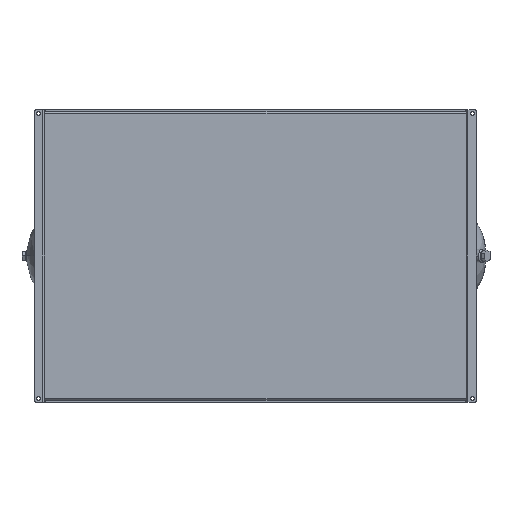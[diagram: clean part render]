
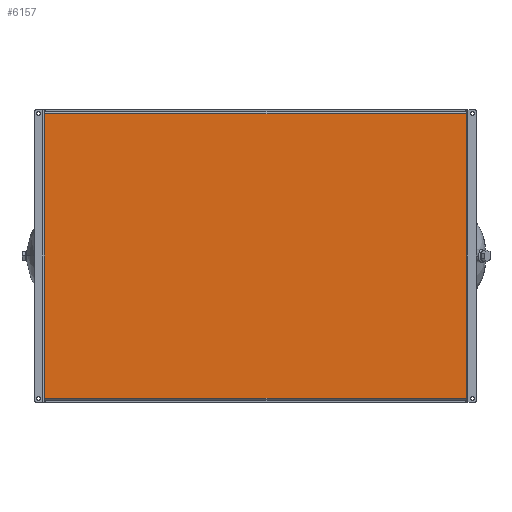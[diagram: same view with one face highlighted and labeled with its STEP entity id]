
A CAD part, front view. The second image highlights one B-rep face of the part: STEP entity #6157.
In plain terms, the highlighted planar face has unit normal (0, -1, 0).
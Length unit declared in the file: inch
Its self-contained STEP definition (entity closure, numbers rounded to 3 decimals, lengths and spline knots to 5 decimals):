
#261 = DIRECTION ( 'NONE',  ( 0., 0., 1. ) ) ;
#443 = VERTEX_POINT ( 'NONE', #5692 ) ;
#508 = DIRECTION ( 'NONE',  ( 0., 0., -1. ) ) ;
#803 = CARTESIAN_POINT ( 'NONE',  ( 90.81415, 2.375, 20.553 ) ) ;
#1126 = ORIENTED_EDGE ( 'NONE', *, *, #4193, .F. ) ;
#1619 = DIRECTION ( 'NONE',  ( 0., -1., 0. ) ) ;
#2019 = LINE ( 'NONE', #4217, #6246 ) ;
#2100 = PLANE ( 'NONE',  #2710 ) ;
#2112 = EDGE_LOOP ( 'NONE', ( #1126, #2872, #4151, #6467 ) ) ;
#2192 = VERTEX_POINT ( 'NONE', #2903 ) ;
#2433 = VERTEX_POINT ( 'NONE', #2805 ) ;
#2620 = VECTOR ( 'NONE', #5908, 39.37008 ) ;
#2623 = CARTESIAN_POINT ( 'NONE',  ( 0., 2.375, 20.75 ) ) ;
#2684 = DIRECTION ( 'NONE',  ( -1., 0., 0. ) ) ;
#2710 = AXIS2_PLACEMENT_3D ( 'NONE', #7124, #1619, #508 ) ;
#2805 = CARTESIAN_POINT ( 'NONE',  ( 51.981, 2.375, 20.553 ) ) ;
#2872 = ORIENTED_EDGE ( 'NONE', *, *, #7082, .T. ) ;
#2903 = CARTESIAN_POINT ( 'NONE',  ( 51.981, 2.375, -14.553 ) ) ;
#3907 = VERTEX_POINT ( 'NONE', #5251 ) ;
#4151 = ORIENTED_EDGE ( 'NONE', *, *, #6120, .T. ) ;
#4193 = EDGE_CURVE ( 'NONE', #2192, #443, #2019, .T. ) ;
#4217 = CARTESIAN_POINT ( 'NONE',  ( 90.81415, 2.375, -14.553 ) ) ;
#4267 = LINE ( 'NONE', #2623, #2620 ) ;
#5251 = CARTESIAN_POINT ( 'NONE',  ( 0., 2.375, 20.553 ) ) ;
#5286 = DIRECTION ( 'NONE',  ( -1., 0., 0. ) ) ;
#5530 = EDGE_CURVE ( 'NONE', #443, #3907, #4267, .T. ) ;
#5692 = CARTESIAN_POINT ( 'NONE',  ( 0., 2.375, -14.553 ) ) ;
#5762 = LINE ( 'NONE', #6322, #6219 ) ;
#5908 = DIRECTION ( 'NONE',  ( 0., 0., 1. ) ) ;
#6120 = EDGE_CURVE ( 'NONE', #2433, #3907, #6939, .T. ) ;
#6157 = ADVANCED_FACE ( 'NONE', ( #6429 ), #2100, .T. ) ;
#6219 = VECTOR ( 'NONE', #261, 39.37008 ) ;
#6246 = VECTOR ( 'NONE', #2684, 39.37008 ) ;
#6322 = CARTESIAN_POINT ( 'NONE',  ( 51.981, 2.375, 20.75 ) ) ;
#6429 = FACE_OUTER_BOUND ( 'NONE', #2112, .T. ) ;
#6467 = ORIENTED_EDGE ( 'NONE', *, *, #5530, .F. ) ;
#6939 = LINE ( 'NONE', #803, #7157 ) ;
#7082 = EDGE_CURVE ( 'NONE', #2192, #2433, #5762, .T. ) ;
#7124 = CARTESIAN_POINT ( 'NONE',  ( 90.81415, 2.375, 20.75 ) ) ;
#7157 = VECTOR ( 'NONE', #5286, 39.37008 ) ;
